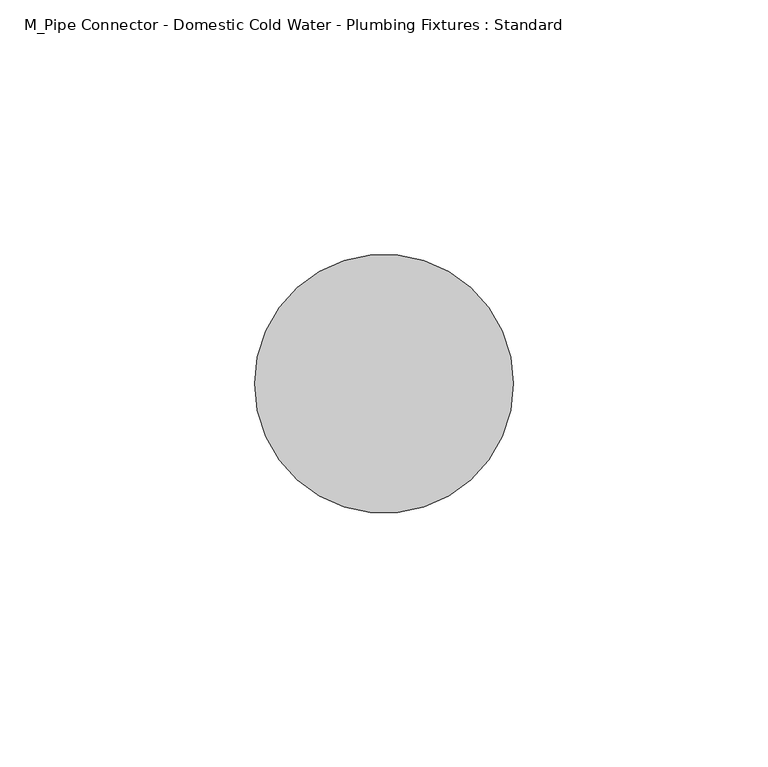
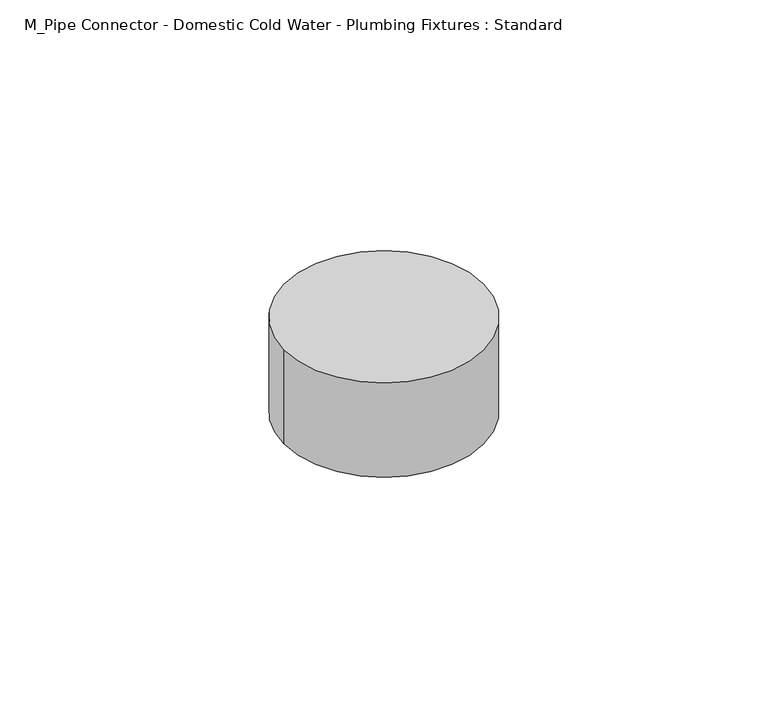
"""IFC4 building model written with IfcOpenShell, lengths in millimetres: flow terminal geometry, M_Pipe Connector - Domestic Cold Water - Plumbing Fixtures : Standard."""

from ifc_helpers import new_model, si_unit, point, origin, origin_with_axes, origin_2d, place, context, project, spatial, circle_curve, trimmed, segment, composite_curve, outline, extrude, source, transform, mapped, element, save


def m_pipe_connector_domestic_cold_water_plumbing_fixtures_13f2922c(model_context):
    return source(origin(), model_context, "Body", "SweptSolid", [
        extrude(outline(composite_curve([segment(trimmed(circle_curve(origin_2d(), 25.4), [point((-25.4, 0.0))], [point((25.4, 0.0))], False, "CARTESIAN"), True, "CONTINUOUS"), segment(trimmed(circle_curve(origin_2d(), 25.4), [point((25.4, 0.0))], [point((-25.4, 0.0))], False, "CARTESIAN"), True, "CONTINUOUS")], self_intersect=False)), origin_with_axes(), (0.0, 0.0, 1.0), 25.4),
    ])


if __name__ == "__main__":
    model = new_model("IFC4")
    model_context = context("Model", 3, world=origin())
    ifc_project = project(units=[si_unit("LENGTHUNIT", "METRE", prefix="MILLI")], contexts=[model_context])
    site = spatial("IfcSite", under=ifc_project)
    building = spatial("IfcBuilding", under=site)
    placement = place(None, origin())
    m_pipe_connector_domestic_cold_water_plumbing_fixtures_shape = m_pipe_connector_domestic_cold_water_plumbing_fixtures_13f2922c(model_context)
    element("IfcFlowTerminal", 1, ObjectType="M_Pipe Connector - Domestic Cold Water - Plumbing Fixtures : Standard", at=placement, inside=building, context=model_context, shape_type="MappedRepresentation", body=[
        mapped(m_pipe_connector_domestic_cold_water_plumbing_fixtures_shape, transform((0.0, 0.0, 0.0), x_axis=(1.0, 0.0, 0.0), y_axis=(0.0, 1.0, 0.0), z_axis=(0.0, 0.0, 1.0))),
    ])
    save(model, "model.ifc")
